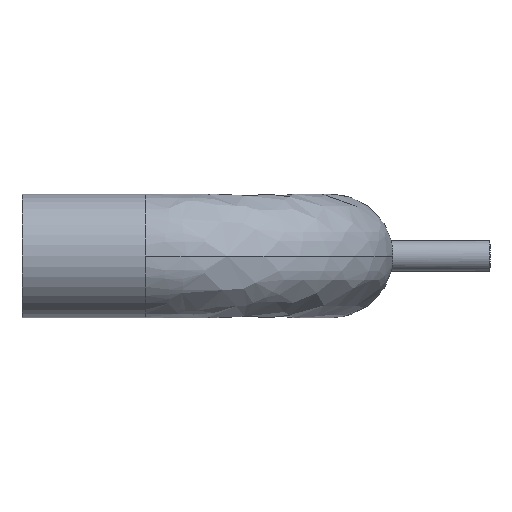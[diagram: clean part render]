
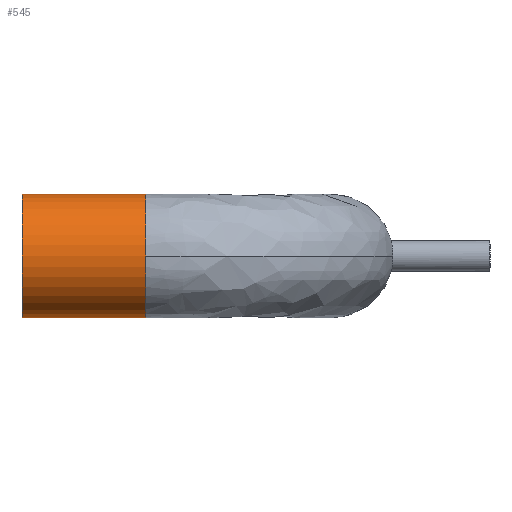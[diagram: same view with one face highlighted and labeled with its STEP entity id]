
A CAD part, left-side view. The second image highlights one B-rep face of the part: STEP entity #545.
In plain terms, the highlighted cylindrical face has radius 25.4 mm (diameter 50.8 mm), a partial arc.
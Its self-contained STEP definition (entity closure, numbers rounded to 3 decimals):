
#15 = DIRECTION ( 'NONE',  ( 0., -1., 0. ) ) ;
#25 = EDGE_CURVE ( 'NONE', #86, #683, #767, .T. ) ;
#62 = DIRECTION ( 'NONE',  ( 0., 1., 0. ) ) ;
#64 = VECTOR ( 'NONE', #400, 1000. ) ;
#69 = EDGE_CURVE ( 'NONE', #286, #86, #828, .T. ) ;
#86 = VERTEX_POINT ( 'NONE', #325 ) ;
#120 = AXIS2_PLACEMENT_3D ( 'NONE', #485, #524, #534 ) ;
#133 = CARTESIAN_POINT ( 'NONE',  ( -76.2, 76.2, 25.4 ) ) ;
#162 = CARTESIAN_POINT ( 'NONE',  ( -76.2, 127., 25.4 ) ) ;
#185 = ORIENTED_EDGE ( 'NONE', *, *, #25, .F. ) ;
#218 = ORIENTED_EDGE ( 'NONE', *, *, #507, .F. ) ;
#252 = ORIENTED_EDGE ( 'NONE', *, *, #813, .T. ) ;
#286 = VERTEX_POINT ( 'NONE', #779 ) ;
#325 = CARTESIAN_POINT ( 'NONE',  ( -76.2, 76.2, -25.4 ) ) ;
#327 = CYLINDRICAL_SURFACE ( 'NONE', #419, 25.4 ) ;
#332 = ORIENTED_EDGE ( 'NONE', *, *, #482, .T. ) ;
#364 = DIRECTION ( 'NONE',  ( -1., 0., 0. ) ) ;
#369 = CARTESIAN_POINT ( 'NONE',  ( -76.2, 76.2, 0. ) ) ;
#376 = CARTESIAN_POINT ( 'NONE',  ( -76.2, 76.2, 25.4 ) ) ;
#400 = DIRECTION ( 'NONE',  ( 0., 1., 0. ) ) ;
#419 = AXIS2_PLACEMENT_3D ( 'NONE', #425, #670, #460 ) ;
#421 = ORIENTED_EDGE ( 'NONE', *, *, #69, .F. ) ;
#425 = CARTESIAN_POINT ( 'NONE',  ( -76.2, 76.2, 0. ) ) ;
#434 = AXIS2_PLACEMENT_3D ( 'NONE', #369, #15, #364 ) ;
#460 = DIRECTION ( 'NONE',  ( 0., 0., 1. ) ) ;
#482 = EDGE_CURVE ( 'NONE', #749, #683, #751, .T. ) ;
#485 = CARTESIAN_POINT ( 'NONE',  ( -76.2, 127., 0. ) ) ;
#507 = EDGE_CURVE ( 'NONE', #739, #286, #538, .T. ) ;
#510 = CARTESIAN_POINT ( 'NONE',  ( -76.2, 76.2, -25.4 ) ) ;
#524 = DIRECTION ( 'NONE',  ( 0., -1., 0. ) ) ;
#534 = DIRECTION ( 'NONE',  ( 0., 0., 1. ) ) ;
#538 = CIRCLE ( 'NONE', #869, 25.4 ) ;
#545 = ADVANCED_FACE ( 'NONE', ( #871 ), #327, .T. ) ;
#655 = CARTESIAN_POINT ( 'NONE',  ( -76.2, 76.2, 0. ) ) ;
#662 = DIRECTION ( 'NONE',  ( 0., -1., 0. ) ) ;
#667 = DIRECTION ( 'NONE',  ( -1., 0., 0. ) ) ;
#670 = DIRECTION ( 'NONE',  ( 0., 1., 0. ) ) ;
#682 = CARTESIAN_POINT ( 'NONE',  ( -76.2, 127., -25.4 ) ) ;
#683 = VERTEX_POINT ( 'NONE', #682 ) ;
#684 = VECTOR ( 'NONE', #62, 1000. ) ;
#739 = VERTEX_POINT ( 'NONE', #376 ) ;
#749 = VERTEX_POINT ( 'NONE', #162 ) ;
#751 = CIRCLE ( 'NONE', #120, 25.4 ) ;
#765 = EDGE_LOOP ( 'NONE', ( #185, #421, #218, #252, #332 ) ) ;
#767 = LINE ( 'NONE', #510, #64 ) ;
#779 = CARTESIAN_POINT ( 'NONE',  ( -101.6, 76.2, 0. ) ) ;
#813 = EDGE_CURVE ( 'NONE', #739, #749, #846, .T. ) ;
#828 = CIRCLE ( 'NONE', #434, 25.4 ) ;
#846 = LINE ( 'NONE', #133, #684 ) ;
#869 = AXIS2_PLACEMENT_3D ( 'NONE', #655, #662, #667 ) ;
#871 = FACE_OUTER_BOUND ( 'NONE', #765, .T. ) ;
